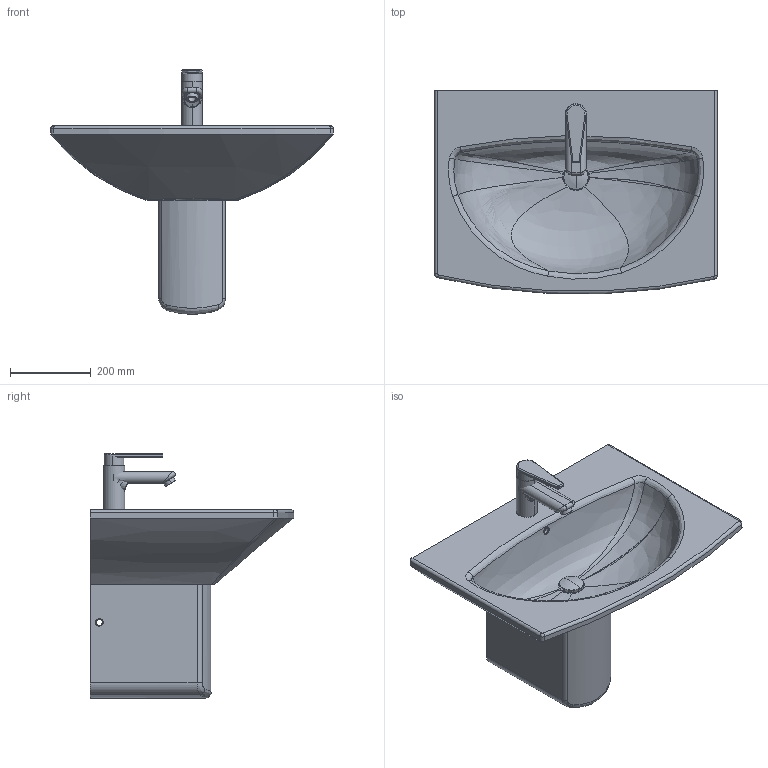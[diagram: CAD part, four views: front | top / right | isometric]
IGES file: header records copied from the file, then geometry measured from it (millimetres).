
Global section: file name: No Iges File Name specified; native system: AutoDesk Inventor R11.0; preprocessor: AutoDesk Inventor Iges Exporter R11.0; author: No Author specified; organization: No Organization specified; date: 20080114.175546; units: millimetre
Bounding box: 700 x 503.8 x 605.13 mm (x, y, z)
Volume: 24520837.9 mm3; surface area: 1637643.4 mm2
Topology: 9 solids, 9 shells, 234 faces, 578 edges, 361 vertices
Faces by surface type: plane 63, cylinder 53, bspline 49, revolution 42, torus 19, sphere 5, cone 3
